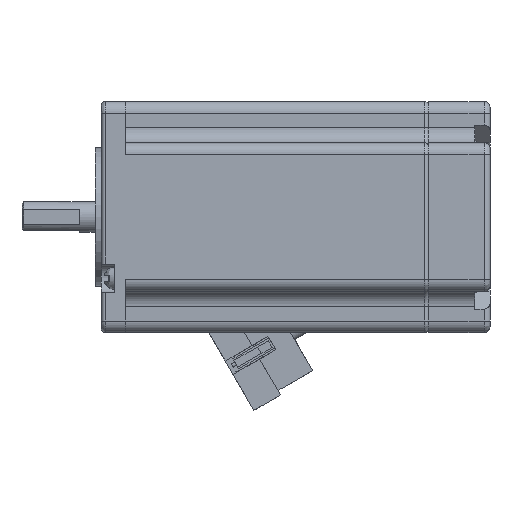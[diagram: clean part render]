
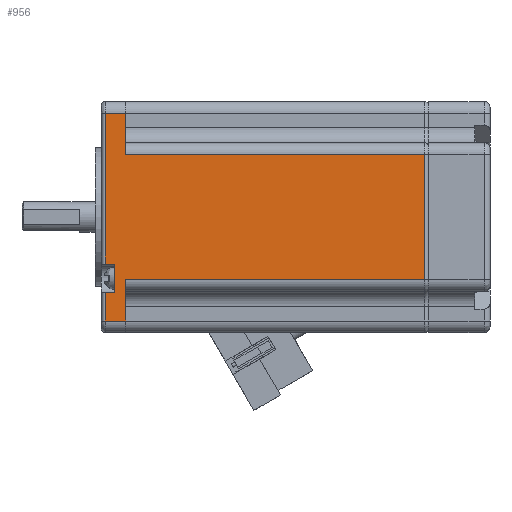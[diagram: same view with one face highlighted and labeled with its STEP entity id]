
A CAD part, front view. The second image highlights one B-rep face of the part: STEP entity #956.
In plain terms, the highlighted planar face has unit normal (0, -1, 0) as drawn and (0, 1, 0) by its records, which use the part's own axes.
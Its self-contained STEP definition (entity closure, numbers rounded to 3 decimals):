
#6 = LINE ( 'NONE', #23852, #19000 ) ;
#581 = ORIENTED_EDGE ( 'NONE', *, *, #15047, .F. ) ;
#956 = ADVANCED_FACE ( 'NONE', ( #28157 ), #14754, .T. ) ;
#1141 = LINE ( 'NONE', #18538, #13796 ) ;
#1176 = VECTOR ( 'NONE', #13889, 1000. ) ;
#2885 = CARTESIAN_POINT ( 'NONE',  ( 92.176, 215.692, -208.5 ) ) ;
#3266 = VERTEX_POINT ( 'NONE', #11762 ) ;
#4253 = DIRECTION ( 'NONE',  ( -1., 0., 0. ) ) ;
#4662 = CARTESIAN_POINT ( 'NONE',  ( 92.176, 215.692, -205.7 ) ) ;
#5270 = DIRECTION ( 'NONE',  ( 0., 1., 0. ) ) ;
#5487 = LINE ( 'NONE', #2885, #17405 ) ;
#5901 = CARTESIAN_POINT ( 'NONE',  ( 78.476, 215.692, -212. ) ) ;
#5933 = CARTESIAN_POINT ( 'NONE',  ( 49.976, 215.692, -208.5 ) ) ;
#6349 = LINE ( 'NONE', #6508, #30200 ) ;
#6428 = CARTESIAN_POINT ( 'NONE',  ( 49.976, 215.692, -211. ) ) ;
#6508 = CARTESIAN_POINT ( 'NONE',  ( 35.176, 215.692, -212. ) ) ;
#7433 = LINE ( 'NONE', #22515, #12293 ) ;
#7982 = ORIENTED_EDGE ( 'NONE', *, *, #20194, .T. ) ;
#7992 = LINE ( 'NONE', #5901, #12858 ) ;
#8450 = EDGE_CURVE ( 'NONE', #3266, #30181, #7992, .T. ) ;
#8996 = EDGE_CURVE ( 'NONE', #14890, #19096, #5487, .T. ) ;
#9123 = CARTESIAN_POINT ( 'NONE',  ( 42.576, 215.692, -211. ) ) ;
#9331 = DIRECTION ( 'NONE',  ( 1., 0., 0. ) ) ;
#9594 = DIRECTION ( 'NONE',  ( 0., 0., -1. ) ) ;
#10222 = ORIENTED_EDGE ( 'NONE', *, *, #13213, .T. ) ;
#10633 = DIRECTION ( 'NONE',  ( -1., 0., 0. ) ) ;
#10719 = LINE ( 'NONE', #18409, #17101 ) ;
#10751 = ORIENTED_EDGE ( 'NONE', *, *, #23535, .T. ) ;
#10788 = VERTEX_POINT ( 'NONE', #14645 ) ;
#11136 = AXIS2_PLACEMENT_3D ( 'NONE', #19438, #5270, #21938 ) ;
#11203 = DIRECTION ( 'NONE',  ( 0., 0., -1. ) ) ;
#11325 = VERTEX_POINT ( 'NONE', #21691 ) ;
#11539 = ORIENTED_EDGE ( 'NONE', *, *, #30718, .T. ) ;
#11762 = CARTESIAN_POINT ( 'NONE',  ( 78.476, 215.692, -128. ) ) ;
#11906 = ORIENTED_EDGE ( 'NONE', *, *, #19196, .T. ) ;
#12150 = VERTEX_POINT ( 'NONE', #19447 ) ;
#12293 = VECTOR ( 'NONE', #10633, 1000. ) ;
#12317 = VECTOR ( 'NONE', #28915, 1000. ) ;
#12337 = DIRECTION ( 'NONE',  ( -1., 0., 0. ) ) ;
#12858 = VECTOR ( 'NONE', #24932, 1000. ) ;
#13203 = EDGE_LOOP ( 'NONE', ( #7982, #11539, #581, #15991, #29452, #10751, #17645, #10222, #11906, #29785, #25114, #22488 ) ) ;
#13213 = EDGE_CURVE ( 'NONE', #11325, #26682, #7433, .T. ) ;
#13275 = VERTEX_POINT ( 'NONE', #30127 ) ;
#13542 = VERTEX_POINT ( 'NONE', #14311 ) ;
#13558 = EDGE_CURVE ( 'NONE', #19096, #15131, #6, .T. ) ;
#13796 = VECTOR ( 'NONE', #4253, 1000. ) ;
#13889 = DIRECTION ( 'NONE',  ( 0., 0., 1. ) ) ;
#14061 = EDGE_CURVE ( 'NONE', #3266, #10788, #1141, .T. ) ;
#14311 = CARTESIAN_POINT ( 'NONE',  ( 45.876, 215.692, -205.7 ) ) ;
#14444 = VECTOR ( 'NONE', #9331, 1000. ) ;
#14645 = CARTESIAN_POINT ( 'NONE',  ( 45.876, 215.692, -128. ) ) ;
#14667 = CARTESIAN_POINT ( 'NONE',  ( 92.176, 215.692, -205.7 ) ) ;
#14754 = PLANE ( 'NONE',  #11136 ) ;
#14890 = VERTEX_POINT ( 'NONE', #5933 ) ;
#15047 = EDGE_CURVE ( 'NONE', #10788, #13542, #10719, .T. ) ;
#15131 = VERTEX_POINT ( 'NONE', #9123 ) ;
#15334 = VECTOR ( 'NONE', #19172, 1000. ) ;
#15991 = ORIENTED_EDGE ( 'NONE', *, *, #14061, .F. ) ;
#17101 = VECTOR ( 'NONE', #11203, 1000. ) ;
#17405 = VECTOR ( 'NONE', #12337, 1000. ) ;
#17645 = ORIENTED_EDGE ( 'NONE', *, *, #27844, .T. ) ;
#17708 = VECTOR ( 'NONE', #21164, 1000. ) ;
#17976 = CARTESIAN_POINT ( 'NONE',  ( 42.576, 215.692, -208.5 ) ) ;
#18409 = CARTESIAN_POINT ( 'NONE',  ( 45.876, 215.692, -205.7 ) ) ;
#18538 = CARTESIAN_POINT ( 'NONE',  ( 92.176, 215.692, -128. ) ) ;
#18771 = CARTESIAN_POINT ( 'NONE',  ( 89.176, 215.692, -212. ) ) ;
#19000 = VECTOR ( 'NONE', #9594, 1000. ) ;
#19096 = VERTEX_POINT ( 'NONE', #17976 ) ;
#19172 = DIRECTION ( 'NONE',  ( -1., 0., 0. ) ) ;
#19196 = EDGE_CURVE ( 'NONE', #26682, #14890, #20170, .T. ) ;
#19438 = CARTESIAN_POINT ( 'NONE',  ( 92.176, 215.692, -212. ) ) ;
#19447 = CARTESIAN_POINT ( 'NONE',  ( 89.176, 215.692, -205.7 ) ) ;
#19758 = EDGE_CURVE ( 'NONE', #15131, #19985, #21670, .T. ) ;
#19985 = VERTEX_POINT ( 'NONE', #24549 ) ;
#20170 = LINE ( 'NONE', #23320, #1176 ) ;
#20194 = EDGE_CURVE ( 'NONE', #19985, #13275, #6349, .T. ) ;
#20764 = LINE ( 'NONE', #4662, #14444 ) ;
#21164 = DIRECTION ( 'NONE',  ( 0., 0., -1. ) ) ;
#21456 = CARTESIAN_POINT ( 'NONE',  ( 92.176, 215.692, -211. ) ) ;
#21670 = LINE ( 'NONE', #21456, #15334 ) ;
#21691 = CARTESIAN_POINT ( 'NONE',  ( 89.176, 215.692, -211. ) ) ;
#21938 = DIRECTION ( 'NONE',  ( 0., 0., 1. ) ) ;
#22488 = ORIENTED_EDGE ( 'NONE', *, *, #19758, .T. ) ;
#22515 = CARTESIAN_POINT ( 'NONE',  ( 92.176, 215.692, -211. ) ) ;
#23147 = DIRECTION ( 'NONE',  ( 0., 0., 1. ) ) ;
#23242 = LINE ( 'NONE', #18771, #17708 ) ;
#23320 = CARTESIAN_POINT ( 'NONE',  ( 49.976, 215.692, -212. ) ) ;
#23535 = EDGE_CURVE ( 'NONE', #30181, #12150, #24213, .T. ) ;
#23745 = CARTESIAN_POINT ( 'NONE',  ( 78.476, 215.692, -205.7 ) ) ;
#23852 = CARTESIAN_POINT ( 'NONE',  ( 42.576, 215.692, -212. ) ) ;
#24213 = LINE ( 'NONE', #14667, #12317 ) ;
#24549 = CARTESIAN_POINT ( 'NONE',  ( 35.176, 215.692, -211. ) ) ;
#24932 = DIRECTION ( 'NONE',  ( 0., 0., -1. ) ) ;
#25114 = ORIENTED_EDGE ( 'NONE', *, *, #13558, .T. ) ;
#26682 = VERTEX_POINT ( 'NONE', #6428 ) ;
#27844 = EDGE_CURVE ( 'NONE', #12150, #11325, #23242, .T. ) ;
#28157 = FACE_OUTER_BOUND ( 'NONE', #13203, .T. ) ;
#28915 = DIRECTION ( 'NONE',  ( 1., 0., 0. ) ) ;
#29452 = ORIENTED_EDGE ( 'NONE', *, *, #8450, .T. ) ;
#29785 = ORIENTED_EDGE ( 'NONE', *, *, #8996, .T. ) ;
#30127 = CARTESIAN_POINT ( 'NONE',  ( 35.176, 215.692, -205.7 ) ) ;
#30181 = VERTEX_POINT ( 'NONE', #23745 ) ;
#30200 = VECTOR ( 'NONE', #23147, 1000. ) ;
#30718 = EDGE_CURVE ( 'NONE', #13275, #13542, #20764, .T. ) ;
